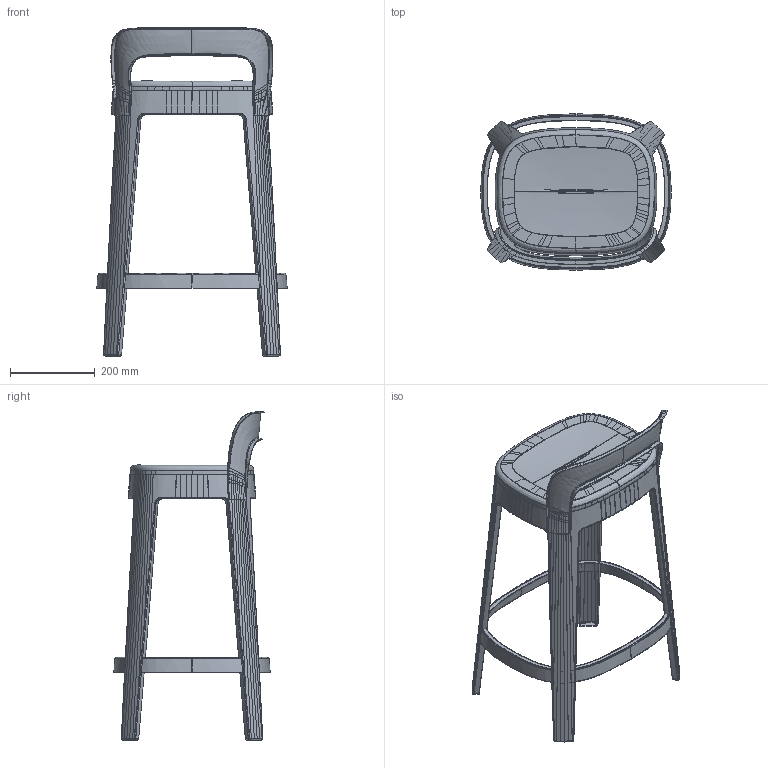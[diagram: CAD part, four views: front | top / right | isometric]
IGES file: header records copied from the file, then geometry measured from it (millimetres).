
Start section: START RECORD GO HERE.
Global section: file name: ombra_stool_65h+b.igs; native system: DASSAULT SYSTEMES CATIA Version 5-6 Release 2017 - www.3ds.com; preprocessor: V5-6R2017_5.27.0.0.10-19-2016.20.00; author: RAFA; organization: RAFA-PC; date: 20181017.170032; units: millimetre
Bounding box: 448.66 x 368.66 x 773.12 mm (x, y, z)
Surface area: 1248557.6 mm2 (no closed solid volume)
Topology: 0 solids, 0 shells, 975 faces, 4148 edges, 4144 vertices
Faces by surface type: bspline 961, plane 14
